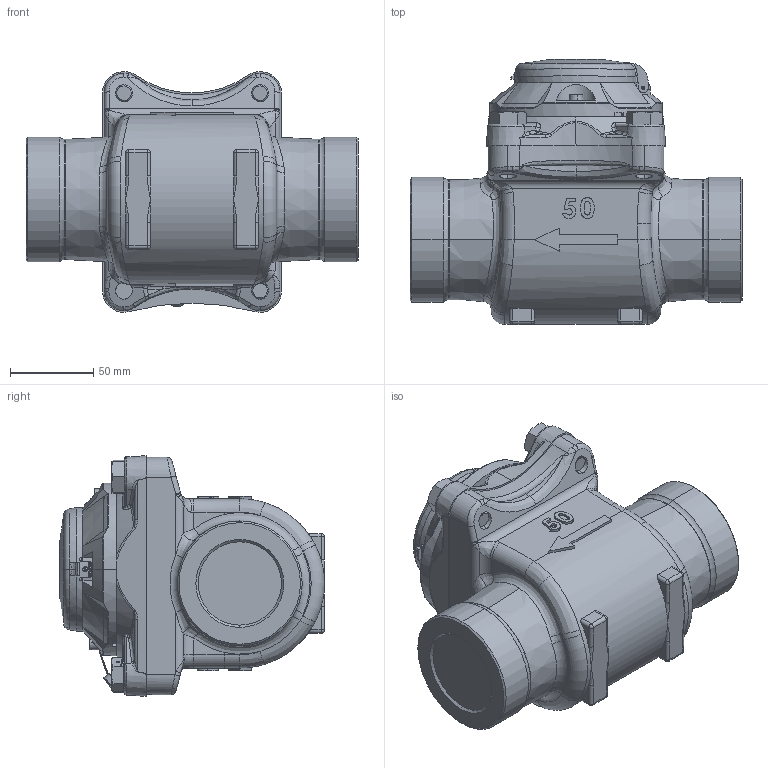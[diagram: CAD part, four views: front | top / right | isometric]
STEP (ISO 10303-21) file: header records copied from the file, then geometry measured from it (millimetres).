
FILE_DESCRIPTION (( 'STEP AP214' ), '1' );
FILE_NAME ('MWN50-G IP65.STEP', '2025-08-04T06:26:31', ( '' ), ( '' ), 'SwSTEP 2.0', 'SolidWorks 2019', '' );
FILE_SCHEMA (( 'AUTOMOTIVE_DESIGN' ));
Length unit declared in the file: millimetre
Products named in the file (1): MWN50-G IP65
Bounding box: 200 x 159.6 x 144.97 mm (x, y, z)
Volume: 1854421 mm3; surface area: 140504 mm2
Topology: 6 solids, 29 shells, 1832 faces, 4939 edges, 3137 vertices
Faces by surface type: plane 949, cylinder 290, bspline 278, cone 209, torus 84, sphere 22
Entity records: 90743 total; most frequent: CARTESIAN_POINT 27165, ORIENTED_EDGE 9766, DIRECTION 8221, EDGE_CURVE 4883, VERTEX_POINT 3137, LINE 2923, VECTOR 2923, AXIS2_PLACEMENT_3D 2649
